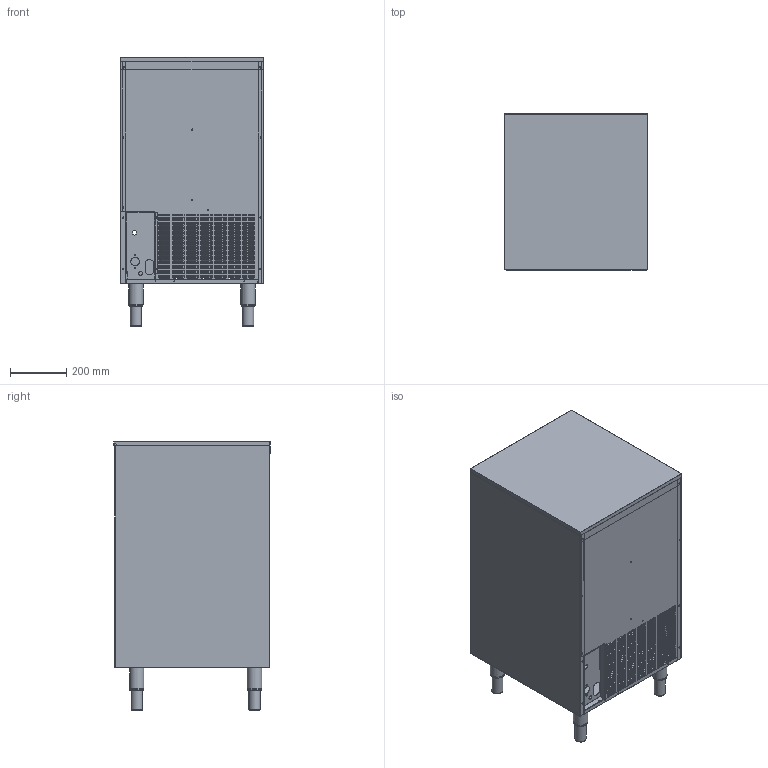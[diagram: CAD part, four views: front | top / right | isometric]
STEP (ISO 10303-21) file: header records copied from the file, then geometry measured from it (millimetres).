
FILE_DESCRIPTION(/* description */ ('Unknown'),/* implementation_level */ '2;1');
FILE_NAME(/* name */ 'NGQ50',/* time_stamp */ '2018-04-23T10:53:42+02:00',/* author */ ('Unknown'),/* organization */ ('Unknown'),/* preprocessor_version */ 'ST-DEVELOPER v16.7',/* originating_system */ 'DEX',/* authorisation */ $);
FILE_SCHEMA (('CONFIG_CONTROL_DESIGN'));
Products named in the file (14): NQ50; Carroceria NQ 50C_oa_0; 41-71+8510; 41-66+8493; 41-63+8490; 41-64+8489; 41-62+8487; 41-62+8488; 32-30; 41-65+8491; 32-42; 41-70+8492; 41-81+8506_oa_1; 41-82+8498
Assembly tree (16 placements, depth 3):
  NQ50
    Carroceria NQ 50C_oa_0
      41-71+8510
      41-66+8493
      41-63+8490
      41-64+8489
      41-62+8487
      41-62+8488
      32-30  x4
      41-65+8491
      32-42
      41-70+8492
    41-81+8506_oa_1
      41-82+8498
Bounding box: 513.4 x 556.7 x 958.9 mm (x, y, z)
Volume: 3311387.5 mm3; surface area: 5304299.3 mm2
Topology: 14 solids, 14 shells, 2841 faces, 8264 edges, 5366 vertices
Faces by surface type: plane 1859, cylinder 642, bspline 316, torus 16, cone 4, sphere 4
Full cylindrical faces by diameter (mm): 2.7 x33, 3.5 x3, 4.2 x13, 4.25 x28, 4.5 x2, 5 x16, 6 x12, 7 x8, 8 x4, 10 x4, 14 x1, 30 x1, 38 x4, 40 x4, 50 x4, 51 x4
Entity records: 101914 total; most frequent: CARTESIAN_POINT 29100, ORIENTED_EDGE 15968, DIRECTION 13345, EDGE_CURVE 7984, LINE 5511, VECTOR 5511, VERTEX_POINT 5245, AXIS2_PLACEMENT_3D 3917
